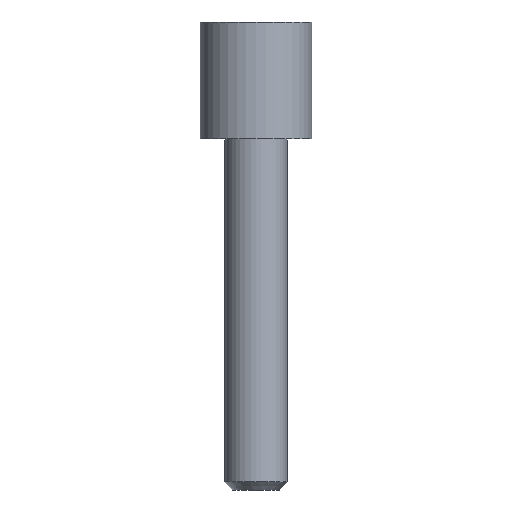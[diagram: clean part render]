
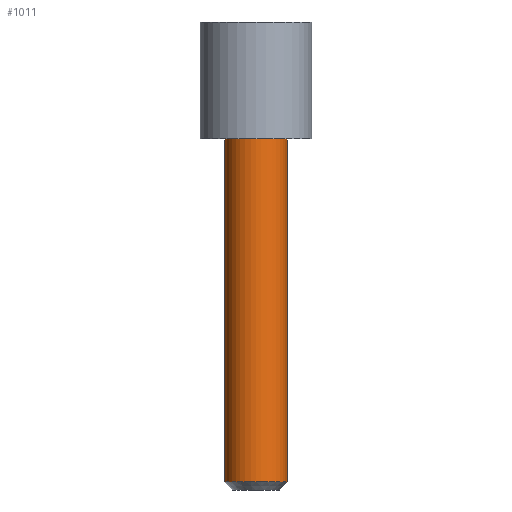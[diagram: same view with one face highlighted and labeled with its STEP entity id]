
A CAD part, front view. The second image highlights one B-rep face of the part: STEP entity #1011.
In plain terms, the highlighted cylindrical face has radius 0.7 mm (diameter 1.4 mm), a full revolution.
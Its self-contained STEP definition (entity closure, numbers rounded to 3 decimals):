
#17=CYLINDRICAL_SURFACE('',#1048,0.7);
#23=CIRCLE('',#1047,0.7);
#24=CIRCLE('',#1049,0.7);
#99=FACE_OUTER_BOUND('',#162,.T.);
#162=EDGE_LOOP('',(#895,#896,#897,#898));
#228=LINE('',#2147,#290);
#290=VECTOR('',#1155,0.7);
#468=VERTEX_POINT('',#2142);
#469=VERTEX_POINT('',#2146);
#615=EDGE_CURVE('',#468,#468,#23,.T.);
#616=EDGE_CURVE('',#468,#469,#228,.T.);
#617=EDGE_CURVE('',#469,#469,#24,.T.);
#895=ORIENTED_EDGE('',*,*,#615,.F.);
#896=ORIENTED_EDGE('',*,*,#616,.T.);
#897=ORIENTED_EDGE('',*,*,#617,.F.);
#898=ORIENTED_EDGE('',*,*,#616,.F.);
#1011=ADVANCED_FACE('',(#99),#17,.T.);
#1047=AXIS2_PLACEMENT_3D('',#2144,#1151,#1152);
#1048=AXIS2_PLACEMENT_3D('',#2145,#1153,#1154);
#1049=AXIS2_PLACEMENT_3D('',#2148,#1156,#1157);
#1151=DIRECTION('center_axis',(0.,0.,-1.));
#1152=DIRECTION('ref_axis',(1.,0.,0.));
#1153=DIRECTION('center_axis',(0.,0.,-1.));
#1154=DIRECTION('ref_axis',(1.,0.,0.));
#1155=DIRECTION('',(0.,0.,1.));
#1156=DIRECTION('center_axis',(0.,0.,1.));
#1157=DIRECTION('ref_axis',(1.,0.,0.));
#2142=CARTESIAN_POINT('',(-0.7,0.,-7.695));
#2144=CARTESIAN_POINT('Origin',(0.,0.,-7.695));
#2145=CARTESIAN_POINT('Origin',(0.,0.,0.));
#2146=CARTESIAN_POINT('',(-0.7,0.,0.));
#2147=CARTESIAN_POINT('',(-0.7,0.,0.));
#2148=CARTESIAN_POINT('Origin',(0.,0.,0.));
